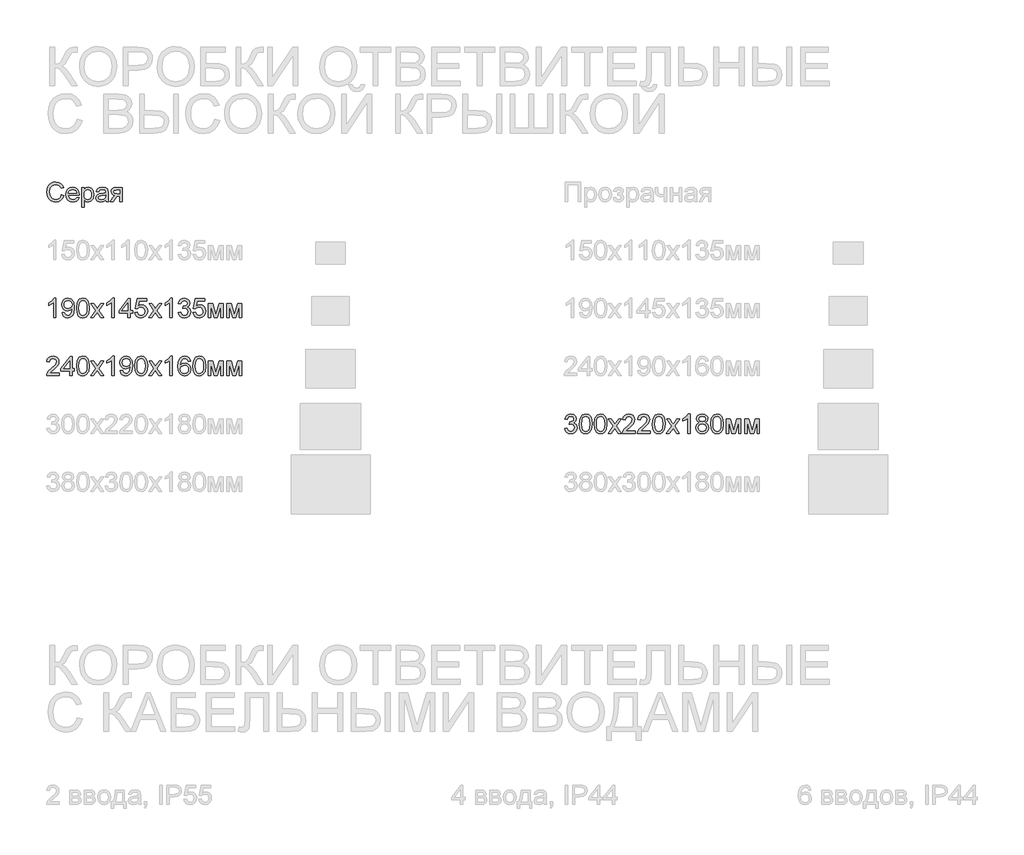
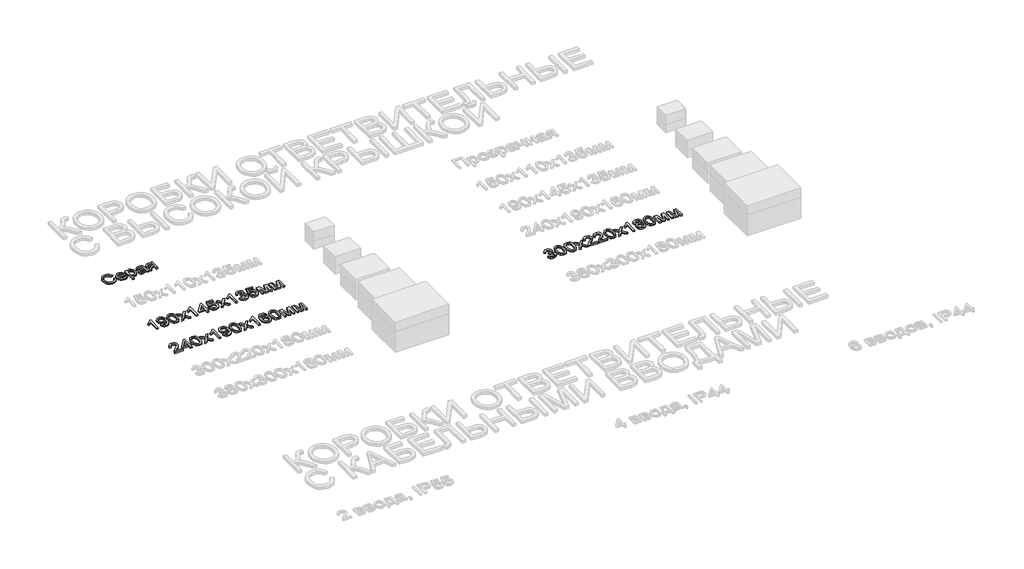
# One storey, part 17 of 98: 4 proxies.
"""IFC4 building model written with IfcOpenShell, lengths in millimetres."""

from ifc_helpers import new_model, si_unit, origin, origin_with_axes, place, context, project, spatial, polyline, outline, extrude, element, save

model = new_model("IFC4")

# Units and contexts
model_context = context("Model", 3, world=origin())
ifc_project = project(units=[si_unit("LENGTHUNIT", "METRE", prefix="MILLI")], contexts=[model_context])

# Site, building, storey
site = spatial("IfcSite", under=ifc_project)
building = spatial("IfcBuilding", under=site)
storey = spatial("IfcBuildingStorey", under=building, Name="Этаж 01", Elevation=0.0)

# Proxies
placement = place(None, origin())
element("IfcBuildingElementProxy", 1, Name="100", ObjectType="100", at=placement, inside=storey, context=model_context, shape_type="SweptSolid", body=[
    extrude(outline(polyline([(34.2297505, -42001.8282696), (46.7867893, -42005.0656312), (40.9926479, -42019.6981375), (31.8998312, -42030.3881752), (19.9559291, -42036.9272776), (5.6085313, -42039.1069785), (-8.95653, -42037.4576408), (-20.5233531, -42032.509628), (-29.3893092, -42024.4346182), (-35.8517696, -42013.4042897), (-41.1124821, -41986.5489041), (-39.6256257, -41971.9010693), (-35.1650565, -41959.25206), (-27.9637664, -41949.0034808), (-18.2547475, -41941.5569361), (-6.740041, -41937.0227905), (5.8783114, -41935.5114086), (19.6462951, -41937.4673146), (31.0291772, -41943.3350324), (39.6713384, -41952.7528115), (45.2171594, -41965.3589012), (32.6601207, -41968.3510081), (22.3594248, -41952.912227), (5.3878021, -41948.0684474), (-14.2570964, -41953.4395245), (-25.35487, -41967.8604987), (-28.5554433, -41986.5243786), (-24.7662588, -42008.1558399), (-12.9695095, -42021.9759402), (4.3577325, -42026.5499397), (14.8393037, -42024.9925726), (23.5734354, -42020.3204712), (30.1677202, -42012.5826866), (34.2297505, -42001.8282696)])), origin_with_axes(), (0.0, 0.0, 1.0), 10.0),
    extrude(outline(polyline([(114.1337199, -42015.5625308), (126.445504, -42017.1321606), (122.0094603, -42026.4089183), (114.9307975, -42033.3434939), (105.3689313, -42037.6661073), (93.4832772, -42039.1069785), (78.7496033, -42036.6207093), (67.4127065, -42029.1619019), (60.1838253, -42017.2149341), (57.7741982, -42001.2641839), (60.2083508, -41984.7769391), (67.5108084, -41972.4467609), (78.694421, -41964.7580272), (92.7720387, -41962.195116), (106.4112637, -41964.7518959), (117.3097678, -41972.4222355), (124.4558755, -41984.7278882), (126.8379114, -42001.1906075), (126.764335, -42004.5751218), (70.331237, -42004.5751218), (72.5048064, -42013.9745068), (77.5539868, -42020.884557), (84.841116, -42025.133594), (93.7285319, -42026.5499397), (106.040316, -42023.9257148), (114.1337199, -42015.5625308)]), holes=[polyline([(70.331237, -41992.0180831), (114.2808727, -41992.0180831), (109.2531521, -41980.6382667), (101.9323004, -41976.2236828), (92.7229878, -41974.7521548), (77.2596812, -41979.4487816), (72.3944418, -41984.9394204), (70.331237, -41992.0180831)])]), origin_with_axes(), (0.0, 0.0, 1.0), 10.0),
    extrude(outline(polyline([(139.3949502, -42065.7906858), (139.3949502, -41963.7647458), (151.951989, -41963.7647458), (151.951989, -41976.07653), (160.6340041, -41965.6654695), (172.357177, -41962.195116), (188.2742046, -41967.0511583), (198.6730024, -41980.7363686), (202.1801441, -42000.0869615), (198.2192812, -42020.4308358), (186.7168375, -42034.2877243), (170.8365981, -42039.1069785), (159.9105028, -42035.8818796), (151.951989, -42027.7271621), (151.951989, -42065.7906858), (139.3949502, -42065.7906858)]), holes=[polyline([(151.951989, -42001.2396584), (153.3100867, -42012.4968475), (157.3843798, -42020.3695222), (163.3961847, -42025.0048353), (170.5668179, -42026.5499397), (177.8539471, -42024.949653), (184.0190362, -42020.148793), (188.222088, -42011.987944), (189.6231053, -42000.3076907), (188.2558105, -41989.1118153), (184.1539263, -41981.128776), (178.1513184, -41976.3463101), (171.0818527, -41974.7521548), (163.9847959, -41976.4474776), (157.7522618, -41981.5334462), (153.4020572, -41989.850645), (151.951989, -42001.2396584)])]), origin_with_axes(), (0.0, 0.0, 1.0), 10.0),
    extrude(outline(polyline([(263.3957081, -42028.1195695), (251.218814, -42036.6299064), (237.7665957, -42039.1069785), (227.2727618, -42037.6170564), (219.5319115, -42033.1472901), (214.7586426, -42026.3598673), (213.167553, -42017.9169755), (215.5710487, -42007.9841617), (221.8863563, -42000.7736746), (230.678736, -41996.6533962), (241.5435175, -41994.7649353), (263.3221317, -41990.4484532), (263.3957081, -41987.6525501), (259.9376173, -41978.3819238), (246.0562033, -41974.7521548), (233.3520118, -41977.1679132), (227.2942216, -41985.7395637), (214.7371828, -41984.1699338), (220.1695736, -41971.9072007), (231.1079316, -41964.721239), (247.6748841, -41962.195116), (262.892936, -41964.4269334), (271.4891119, -41970.0310025), (275.3396102, -41978.5536021), (275.9527468, -41989.541011), (275.9527468, -42005.163733), (276.5904089, -42026.9791354), (279.0920065, -42037.5373486), (266.5349677, -42037.5373486), (263.3957081, -42028.1195695)]), holes=[polyline([(263.3957081, -42003.005492), (243.1376729, -42006.8559902), (232.3342049, -42008.8916039), (227.4413744, -42012.2025419), (225.7245917, -42017.0340587), (229.4647254, -42023.8276129), (240.4398716, -42026.5499397), (253.1440631, -42023.5455701), (261.3355689, -42016.2737693), (263.3221317, -42006.5616846), (263.3957081, -42003.005492)])]), origin_with_axes(), (0.0, 0.0, 1.0), 10.0),
    extrude(outline(polyline([(349.7253496, -41963.7647458), (349.7253496, -42037.5373486), (337.1683108, -42037.5373486), (337.1683108, -42009.2840114), (330.3257057, -42009.2840114), (321.0060285, -42010.8781667), (312.250437, -42021.5957955), (302.2440467, -42037.5373486), (287.7249707, -42037.5373486), (300.3310604, -42017.3774153), (311.0241637, -42006.9295666), (302.4402505, -42004.2992103), (296.4069858, -41999.3021466), (291.6490453, -41985.0773761), (293.2738574, -41976.4812001), (298.1482939, -41969.6753832), (306.1006763, -41965.2424052), (316.9593266, -41963.7647458), (349.7253496, -41963.7647458)]), holes=[polyline([(337.1683108, -41976.3217846), (320.613621, -41976.3217846), (307.2104537, -41979.2280524), (304.2060841, -41986.0338693), (308.6329307, -41994.1395359), (324.3169665, -41996.7269726), (337.1683108, -41996.7269726), (337.1683108, -41976.3217846)])]), origin_with_axes(), (0.0, 0.0, 1.0), 10.0),
])
element("IfcBuildingElementProxy", 2, Name="100", ObjectType="100", at=placement, inside=storey, context=model_context, shape_type="SweptSolid", body=[
    extrude(outline(polyline([(5.9764133, -42637.5373486), (-6.5806255, -42637.5373486), (-6.5806255, -42559.25206), (-18.4754766, -42567.7256087), (-31.694703, -42574.0654417), (-31.694703, -42562.195116), (-13.2883405, -42550.4474176), (-2.1169906, -42537.0810385), (5.9764133, -42537.0810385), (5.9764133, -42637.5373486)])), origin_with_axes(), (0.0, 0.0, 1.0), 10.0),
    extrude(outline(polyline([(37.3690102, -42612.4232711), (49.926049, -42610.8536412), (55.5669062, -42622.8343315), (66.2600096, -42626.5499397), (76.4258154, -42624.1587067), (83.3174714, -42617.7698227), (87.425487, -42606.8559902), (89.2403715, -42592.2878632), (89.1667951, -42589.8353166), (79.1236167, -42599.3511975), (65.3525673, -42603.005492), (53.9022402, -42600.7736746), (44.3710309, -42594.0782222), (37.942293, -42583.7346068), (35.7993804, -42570.5583), (38.0465262, -42556.9466662), (44.7879638, -42546.2780883), (54.9139157, -42539.3803009), (67.3146046, -42537.0810385), (85.2059323, -42542.3294883), (97.5177164, -42557.2900227), (101.7238339, -42585.3962072), (97.5299792, -42615.8936246), (92.3152519, -42625.8846864), (85.0587795, -42633.1718156), (76.0732618, -42637.6231877), (65.6713984, -42639.1069785), (54.9353755, -42637.3564733), (46.3698564, -42632.1049578), (40.3795112, -42623.6835258), (37.3690102, -42612.4232711)]), holes=[polyline([(89.1667951, -42570.2639944), (87.8117631, -42561.7536576), (83.7466671, -42555.2053581), (77.4374909, -42551.0298974), (69.3502183, -42549.6380772), (60.9625088, -42551.1371964), (54.2425311, -42555.6345538), (49.8279471, -42562.5170127), (48.3564191, -42571.1714367), (49.7482394, -42578.9306811), (53.9237, -42585.0896388), (60.4781309, -42589.1087496), (69.0068618, -42590.4484532), (83.4891497, -42585.0896388), (87.7473838, -42578.7038205), (89.1667951, -42570.2639944)])]), origin_with_axes(), (0.0, 0.0, 1.0), 10.0),
    extrude(outline(polyline([(112.7112428, -42588.1185339), (116.4023255, -42559.2152718), (127.365209, -42542.5502175), (145.6734696, -42537.0810385), (160.3396985, -42540.3184), (170.4687161, -42549.65034), (176.354828, -42564.5127726), (178.6356964, -42588.1185339), (174.9814019, -42616.8991687), (164.0553066, -42633.6010113), (155.823947, -42637.7304867), (145.6734696, -42639.1069785), (132.6259215, -42636.7157455), (122.7176331, -42629.5420466), (115.2128404, -42612.5520298), (112.7112428, -42588.1185339)]), holes=[polyline([(125.2682816, -42588.0940085), (126.7398096, -42607.8462059), (131.1543935, -42619.2781389), (137.7272185, -42624.7319895), (145.6734696, -42626.5499397), (153.6197207, -42624.7258581), (160.1925457, -42619.2536135), (164.6071296, -42607.8155491), (166.0786576, -42588.0940085), (164.6561806, -42568.7863351), (160.3887494, -42557.2654973), (153.8281872, -42551.5449322), (145.5263168, -42549.6380772), (137.6659048, -42551.3180717), (131.3505973, -42556.358055), (126.7888605, -42568.5962627), (125.2682816, -42588.0940085)])]), origin_with_axes(), (0.0, 0.0, 1.0), 10.0),
    extrude(outline(polyline([(184.9142158, -42637.5373486), (211.7450759, -42600.4548435), (186.4838456, -42563.7647458), (201.5915329, -42563.7647458), (213.7806896, -42581.4230816), (219.4705978, -42589.7617402), (224.4002166, -42582.9436605), (238.2816305, -42563.7647458), (253.3893178, -42563.7647458), (226.8527632, -42600.4548435), (252.4082991, -42637.5373486), (237.3006119, -42637.5373486), (221.9231445, -42615.2436997), (219.1027158, -42611.1724723), (200.021903, -42637.5373486), (184.9142158, -42637.5373486)])), origin_with_axes(), (0.0, 0.0, 1.0), 10.0),
    extrude(outline(polyline([(307.3453437, -42637.5373486), (294.788305, -42637.5373486), (294.788305, -42559.25206), (282.8934538, -42567.7256087), (269.6742274, -42574.0654417), (269.6742274, -42562.195116), (288.0805899, -42550.4474176), (299.2519399, -42537.0810385), (307.3453437, -42537.0810385), (307.3453437, -42637.5373486)])), origin_with_axes(), (0.0, 0.0, 1.0), 10.0),
    extrude(outline(polyline([(377.9786868, -42637.5373486), (377.9786868, -42613.9929009), (332.4594213, -42613.9929009), (332.4594213, -42601.4358622), (381.1179465, -42538.6506683), (390.5357256, -42538.6506683), (390.5357256, -42601.4358622), (403.0927644, -42601.4358622), (403.0927644, -42613.9929009), (390.5357256, -42613.9929009), (390.5357256, -42637.5373486), (377.9786868, -42637.5373486)]), holes=[polyline([(377.9786868, -42601.4358622), (377.9786868, -42562.6365744), (347.9104651, -42601.4358622), (377.9786868, -42601.4358622)])]), origin_with_axes(), (0.0, 0.0, 1.0), 10.0),
    extrude(outline(polyline([(414.0801733, -42610.8536412), (426.637212, -42609.2840114), (432.9647824, -42622.2211949), (446.0859069, -42626.5499397), (455.086753, -42625.0446892), (461.8312563, -42620.5289377), (466.0435051, -42613.5238514), (467.447588, -42604.5505964), (462.1868755, -42589.6391128), (455.580328, -42585.5372286), (446.2821106, -42584.1699338), (435.2579135, -42586.3527004), (428.2068419, -42592.0180831), (415.6498031, -42590.4484532), (426.637212, -42538.6506683), (475.2957373, -42538.6506683), (475.2957373, -42551.2077071), (436.7907551, -42551.2077071), (431.419678, -42578.8724331), (440.3898673, -42573.4277796), (449.7892523, -42571.6128951), (461.5216222, -42573.8631066), (471.2612981, -42580.6137412), (477.8187946, -42590.9021744), (480.0046268, -42603.7657815), (478.0364581, -42616.3228202), (472.1319521, -42627.0649745), (460.8257121, -42636.0964775), (446.0368559, -42639.1069785), (433.703612, -42637.1725323), (423.8780971, -42631.3691938), (417.1427909, -42622.3714134), (414.0801733, -42610.8536412)])), origin_with_axes(), (0.0, 0.0, 1.0), 10.0),
    extrude(outline(polyline([(486.2831462, -42637.5373486), (513.1140064, -42600.4548435), (487.852776, -42563.7647458), (502.9604633, -42563.7647458), (515.1496201, -42581.4230816), (520.8395283, -42589.7617402), (525.769147, -42582.9436605), (539.650561, -42563.7647458), (554.7582482, -42563.7647458), (528.2216937, -42600.4548435), (553.7772296, -42637.5373486), (538.6695423, -42637.5373486), (523.2920749, -42615.2436997), (520.4716463, -42611.1724723), (501.3908335, -42637.5373486), (486.2831462, -42637.5373486)])), origin_with_axes(), (0.0, 0.0, 1.0), 10.0),
    extrude(outline(polyline([(608.7142742, -42637.5373486), (596.1572354, -42637.5373486), (596.1572354, -42559.25206), (584.2623842, -42567.7256087), (571.0431579, -42574.0654417), (571.0431579, -42562.195116), (589.4495204, -42550.4474176), (600.6208703, -42537.0810385), (608.7142742, -42537.0810385), (608.7142742, -42637.5373486)])), origin_with_axes(), (0.0, 0.0, 1.0), 10.0),
    extrude(outline(polyline([(638.5372413, -42610.8536412), (651.09428, -42609.2840114), (658.0227243, -42622.5032377), (670.9844332, -42626.5499397), (679.5928719, -42625.1581195), (686.2392733, -42620.9826588), (691.904656, -42607.1993467), (686.2883242, -42594.2131123), (672.0145028, -42589.0750271), (663.2098604, -42590.4484532), (664.607812, -42577.8914145), (666.6189002, -42578.0385673), (680.8681962, -42574.4333237), (685.6138739, -42569.8593242), (687.1957665, -42563.3478129), (682.6095043, -42553.5253636), (670.7882295, -42549.6380772), (658.8198019, -42553.5621518), (652.6639099, -42565.3343757), (640.1068711, -42563.7647458), (643.8040852, -42552.4891627), (650.3830415, -42544.0707964), (659.3838877, -42538.8284779), (670.3467711, -42537.0810385), (685.4912466, -42540.5268665), (696.086248, -42549.9446456), (699.7528053, -42562.6120489), (696.270189, -42574.188069), (685.9694932, -42582.5022021), (699.6547034, -42591.0861154), (704.4616948, -42607.4200759), (702.0581991, -42619.6582836), (694.847712, -42629.8854031), (683.9645363, -42636.8015846), (670.5429749, -42639.1069785), (658.402869, -42637.1388098), (648.5191061, -42631.2343038), (641.6458441, -42622.2028008), (638.5372413, -42610.8536412)])), origin_with_axes(), (0.0, 0.0, 1.0), 10.0),
    extrude(outline(polyline([(715.4491037, -42610.8536412), (728.0061425, -42609.2840114), (734.3337128, -42622.2211949), (747.4548373, -42626.5499397), (756.4556835, -42625.0446892), (763.2001867, -42620.5289377), (767.4124355, -42613.5238514), (768.8165185, -42604.5505964), (763.555806, -42589.6391128), (756.9492585, -42585.5372286), (747.651041, -42584.1699338), (736.6268439, -42586.3527004), (729.5757723, -42592.0180831), (717.0187336, -42590.4484532), (728.0061425, -42538.6506683), (776.6646677, -42538.6506683), (776.6646677, -42551.2077071), (738.1596856, -42551.2077071), (732.7886084, -42578.8724331), (741.7587978, -42573.4277796), (751.1581827, -42571.6128951), (762.8905527, -42573.8631066), (772.6302285, -42580.6137412), (779.1877251, -42590.9021744), (781.3735573, -42603.7657815), (779.4053886, -42616.3228202), (773.5008826, -42627.0649745), (762.1946426, -42636.0964775), (747.4057864, -42639.1069785), (735.0725425, -42637.1725323), (725.2470275, -42631.3691938), (718.5117213, -42622.3714134), (715.4491037, -42610.8536412)])), origin_with_axes(), (0.0, 0.0, 1.0), 10.0),
    extrude(outline(polyline([(795.5002259, -42563.7647458), (817.1071617, -42563.7647458), (833.7599534, -42622.8220688), (851.7125947, -42563.7647458), (872.4120883, -42563.7647458), (872.4120883, -42637.5373486), (859.8550496, -42637.5373486), (859.8550496, -42578.1366691), (841.8043063, -42637.5373486), (825.323193, -42637.5373486), (808.0572646, -42575.291715), (808.0572646, -42637.5373486), (795.5002259, -42637.5373486), (795.5002259, -42563.7647458)])), origin_with_axes(), (0.0, 0.0, 1.0), 10.0),
    extrude(outline(polyline([(891.2476465, -42563.7647458), (912.8545823, -42563.7647458), (929.507374, -42622.8220688), (947.4600154, -42563.7647458), (968.1595089, -42563.7647458), (968.1595089, -42637.5373486), (955.6024702, -42637.5373486), (955.6024702, -42578.1366691), (937.551727, -42637.5373486), (921.0706136, -42637.5373486), (903.8046853, -42575.291715), (903.8046853, -42637.5373486), (891.2476465, -42637.5373486), (891.2476465, -42563.7647458)])), origin_with_axes(), (0.0, 0.0, 1.0), 10.0),
])
element("IfcBuildingElementProxy", 3, Name="100", ObjectType="100", at=placement, inside=storey, context=model_context, shape_type="SweptSolid", body=[
    extrude(outline(polyline([(23.2423416, -42924.9803098), (23.2423416, -42937.5373486), (-42.6821119, -42937.5373486), (-41.3332113, -42928.879859), (-33.7057912, -42915.550268), (-17.9849673, -42900.9944038), (3.6955449, -42880.074181), (9.115673, -42865.8494105), (4.0021133, -42854.334704), (-9.3520032, -42849.6380772), (-23.2702053, -42854.2243394), (-28.5554433, -42866.9040055), (-41.1124821, -42865.3343757), (-38.0682586, -42853.1881385), (-31.4862365, -42844.316051), (-21.7097725, -42838.8897916), (-9.082223, -42837.0810385), (3.6372969, -42839.0921267), (13.3953669, -42845.1253914), (19.6033755, -42854.1385003), (21.6727118, -42865.089121), (19.4408943, -42876.9962349), (12.0219408, -42889.308019), (-5.9674888, -42906.5126337), (-20.4129885, -42918.5914259), (-26.0783712, -42924.9803098), (23.2423416, -42924.9803098)])), origin_with_axes(), (0.0, 0.0, 1.0), 10.0),
    extrude(outline(polyline([(76.6097564, -42937.5373486), (76.6097564, -42913.9929009), (31.0904908, -42913.9929009), (31.0904908, -42901.4358622), (79.7490161, -42838.6506683), (89.1667951, -42838.6506683), (89.1667951, -42901.4358622), (101.7238339, -42901.4358622), (101.7238339, -42913.9929009), (89.1667951, -42913.9929009), (89.1667951, -42937.5373486), (76.6097564, -42937.5373486)]), holes=[polyline([(76.6097564, -42901.4358622), (76.6097564, -42862.6365744), (46.5415346, -42901.4358622), (76.6097564, -42901.4358622)])]), origin_with_axes(), (0.0, 0.0, 1.0), 10.0),
    extrude(outline(polyline([(112.7112428, -42888.1185339), (116.4023255, -42859.2152718), (127.365209, -42842.5502175), (145.6734696, -42837.0810385), (160.3396985, -42840.3184), (170.4687161, -42849.65034), (176.354828, -42864.5127726), (178.6356964, -42888.1185339), (174.9814019, -42916.8991687), (164.0553066, -42933.6010113), (155.823947, -42937.7304867), (145.6734696, -42939.1069785), (132.6259215, -42936.7157455), (122.7176331, -42929.5420466), (115.2128404, -42912.5520298), (112.7112428, -42888.1185339)]), holes=[polyline([(125.2682816, -42888.0940085), (126.7398096, -42907.8462059), (131.1543935, -42919.2781389), (137.7272185, -42924.7319895), (145.6734696, -42926.5499397), (153.6197207, -42924.7258581), (160.1925457, -42919.2536135), (164.6071296, -42907.8155491), (166.0786576, -42888.0940085), (164.6561806, -42868.7863351), (160.3887494, -42857.2654973), (153.8281872, -42851.5449322), (145.5263168, -42849.6380772), (137.6659048, -42851.3180717), (131.3505973, -42856.358055), (126.7888605, -42868.5962627), (125.2682816, -42888.0940085)])]), origin_with_axes(), (0.0, 0.0, 1.0), 10.0),
    extrude(outline(polyline([(184.9142158, -42937.5373486), (211.7450759, -42900.4548435), (186.4838456, -42863.7647458), (201.5915329, -42863.7647458), (213.7806896, -42881.4230816), (219.4705978, -42889.7617402), (224.4002166, -42882.9436605), (238.2816305, -42863.7647458), (253.3893178, -42863.7647458), (226.8527632, -42900.4548435), (252.4082991, -42937.5373486), (237.3006119, -42937.5373486), (221.9231445, -42915.2436997), (219.1027158, -42911.1724723), (200.021903, -42937.5373486), (184.9142158, -42937.5373486)])), origin_with_axes(), (0.0, 0.0, 1.0), 10.0),
    extrude(outline(polyline([(307.3453437, -42937.5373486), (294.788305, -42937.5373486), (294.788305, -42859.25206), (282.8934538, -42867.7256087), (269.6742274, -42874.0654417), (269.6742274, -42862.195116), (288.0805899, -42850.4474176), (299.2519399, -42837.0810385), (307.3453437, -42837.0810385), (307.3453437, -42937.5373486)])), origin_with_axes(), (0.0, 0.0, 1.0), 10.0),
    extrude(outline(polyline([(338.7379407, -42912.4232711), (351.2949794, -42910.8536412), (356.9358367, -42922.8343315), (367.62894, -42926.5499397), (377.7947458, -42924.1587067), (384.6864019, -42917.7698227), (388.7944175, -42906.8559902), (390.609302, -42892.2878632), (390.5357256, -42889.8353166), (380.4925471, -42899.3511975), (366.7214978, -42903.005492), (355.2711707, -42900.7736746), (345.7399613, -42894.0782222), (339.3112234, -42883.7346068), (337.1683108, -42870.5583), (339.4154567, -42856.9466662), (346.1568942, -42846.2780883), (356.2828462, -42839.3803009), (368.6835351, -42837.0810385), (386.5748628, -42842.3294883), (398.8866469, -42857.2900227), (403.0927644, -42885.3962072), (398.8989096, -42915.8936246), (393.6841823, -42925.8846864), (386.42771, -42933.1718156), (377.4421922, -42937.6231877), (367.0403288, -42939.1069785), (356.3043059, -42937.3564733), (347.7387868, -42932.1049578), (341.7484417, -42923.6835258), (338.7379407, -42912.4232711)]), holes=[polyline([(390.5357256, -42870.2639944), (389.1806936, -42861.7536576), (385.1155975, -42855.2053581), (378.8064213, -42851.0298974), (370.7191488, -42849.6380772), (362.3314393, -42851.1371964), (355.6114615, -42855.6345538), (351.1968776, -42862.5170127), (349.7253496, -42871.1714367), (351.1171698, -42878.9306811), (355.2926305, -42885.0896388), (361.8470613, -42889.1087496), (370.3757923, -42890.4484532), (384.8580801, -42885.0896388), (389.1163142, -42878.7038205), (390.5357256, -42870.2639944)])]), origin_with_axes(), (0.0, 0.0, 1.0), 10.0),
    extrude(outline(polyline([(414.0801733, -42888.1185339), (417.771256, -42859.2152718), (428.7341394, -42842.5502175), (447.0424, -42837.0810385), (461.7086289, -42840.3184), (471.8376465, -42849.65034), (477.7237584, -42864.5127726), (480.0046268, -42888.1185339), (476.3503323, -42916.8991687), (465.4242371, -42933.6010113), (457.1928774, -42937.7304867), (447.0424, -42939.1069785), (433.994852, -42936.7157455), (424.0865635, -42929.5420466), (416.5817708, -42912.5520298), (414.0801733, -42888.1185339)]), holes=[polyline([(426.637212, -42888.0940085), (428.10874, -42907.8462059), (432.523324, -42919.2781389), (439.096149, -42924.7319895), (447.0424, -42926.5499397), (454.9886511, -42924.7258581), (461.5614761, -42919.2536135), (465.9760601, -42907.8155491), (467.447588, -42888.0940085), (466.025111, -42868.7863351), (461.7576799, -42857.2654973), (455.1971176, -42851.5449322), (446.8952472, -42849.6380772), (439.0348353, -42851.3180717), (432.7195277, -42856.358055), (428.157791, -42868.5962627), (426.637212, -42888.0940085)])]), origin_with_axes(), (0.0, 0.0, 1.0), 10.0),
    extrude(outline(polyline([(486.2831462, -42937.5373486), (513.1140064, -42900.4548435), (487.852776, -42863.7647458), (502.9604633, -42863.7647458), (515.1496201, -42881.4230816), (520.8395283, -42889.7617402), (525.769147, -42882.9436605), (539.650561, -42863.7647458), (554.7582482, -42863.7647458), (528.2216937, -42900.4548435), (553.7772296, -42937.5373486), (538.6695423, -42937.5373486), (523.2920749, -42915.2436997), (520.4716463, -42911.1724723), (501.3908335, -42937.5373486), (486.2831462, -42937.5373486)])), origin_with_axes(), (0.0, 0.0, 1.0), 10.0),
    extrude(outline(polyline([(608.7142742, -42937.5373486), (596.1572354, -42937.5373486), (596.1572354, -42859.25206), (584.2623842, -42867.7256087), (571.0431579, -42874.0654417), (571.0431579, -42862.195116), (589.4495204, -42850.4474176), (600.6208703, -42837.0810385), (608.7142742, -42837.0810385), (608.7142742, -42937.5373486)])), origin_with_axes(), (0.0, 0.0, 1.0), 10.0),
    extrude(outline(polyline([(702.892065, -42863.7647458), (690.3350262, -42865.3343757), (685.5770857, -42854.8620016), (672.9955215, -42849.6380772), (661.664756, -42852.6792351), (653.0931055, -42864.0958396), (649.5246502, -42886.4753277), (660.5978982, -42876.4566747), (674.3198967, -42873.1825249), (685.9204422, -42875.4204737), (695.6570524, -42882.1343201), (702.2605342, -42892.3920964), (704.4616948, -42905.2618349), (700.316891, -42922.5890769), (688.9125491, -42934.85181), (672.4559612, -42939.1069785), (658.209731, -42936.2865498), (646.8636371, -42927.8252639), (639.4416178, -42912.8892549), (636.9676114, -42890.644657), (639.7144637, -42865.6348127), (647.9550203, -42848.5344312), (659.206078, -42839.9443867), (673.7803364, -42837.0810385), (684.7984022, -42838.8530034), (693.6214387, -42844.1688982), (699.8018562, -42852.61179), (702.892065, -42863.7647458)]), holes=[polyline([(649.5246502, -42905.0656312), (652.430918, -42915.9426755), (660.1564399, -42923.8398757), (671.4749426, -42926.5499397), (679.7614845, -42925.1458567), (686.2760615, -42920.9336079), (690.4975074, -42914.311732), (691.904656, -42905.6787678), (690.5159015, -42897.3922259), (686.3496379, -42891.0738526), (679.7246963, -42887.0731359), (670.9599078, -42885.7395637), (655.7663814, -42891.0738526), (651.085083, -42897.2389417), (649.5246502, -42905.0656312)])]), origin_with_axes(), (0.0, 0.0, 1.0), 10.0),
    extrude(outline(polyline([(715.4491037, -42888.1185339), (719.1401864, -42859.2152718), (730.1030699, -42842.5502175), (748.4113305, -42837.0810385), (763.0775594, -42840.3184), (773.206577, -42849.65034), (779.0926889, -42864.5127726), (781.3735573, -42888.1185339), (777.7192628, -42916.8991687), (766.7931675, -42933.6010113), (758.5618079, -42937.7304867), (748.4113305, -42939.1069785), (735.3637824, -42936.7157455), (725.455494, -42929.5420466), (717.9507013, -42912.5520298), (715.4491037, -42888.1185339)]), holes=[polyline([(728.0061425, -42888.0940085), (729.4776705, -42907.8462059), (733.8922544, -42919.2781389), (740.4650794, -42924.7319895), (748.4113305, -42926.5499397), (756.3575816, -42924.7258581), (762.9304066, -42919.2536135), (767.3449905, -42907.8155491), (768.8165185, -42888.0940085), (767.3940414, -42868.7863351), (763.1266103, -42857.2654973), (756.5660481, -42851.5449322), (748.2641777, -42849.6380772), (740.4037657, -42851.3180717), (734.0884582, -42856.358055), (729.5267214, -42868.5962627), (728.0061425, -42888.0940085)])]), origin_with_axes(), (0.0, 0.0, 1.0), 10.0),
    extrude(outline(polyline([(795.5002259, -42863.7647458), (817.1071617, -42863.7647458), (833.7599534, -42922.8220688), (851.7125947, -42863.7647458), (872.4120883, -42863.7647458), (872.4120883, -42937.5373486), (859.8550496, -42937.5373486), (859.8550496, -42878.1366691), (841.8043063, -42937.5373486), (825.323193, -42937.5373486), (808.0572646, -42875.291715), (808.0572646, -42937.5373486), (795.5002259, -42937.5373486), (795.5002259, -42863.7647458)])), origin_with_axes(), (0.0, 0.0, 1.0), 10.0),
    extrude(outline(polyline([(891.2476465, -42863.7647458), (912.8545823, -42863.7647458), (929.507374, -42922.8220688), (947.4600154, -42863.7647458), (968.1595089, -42863.7647458), (968.1595089, -42937.5373486), (955.6024702, -42937.5373486), (955.6024702, -42878.1366691), (937.551727, -42937.5373486), (921.0706136, -42937.5373486), (903.8046853, -42875.291715), (903.8046853, -42937.5373486), (891.2476465, -42937.5373486), (891.2476465, -42863.7647458)])), origin_with_axes(), (0.0, 0.0, 1.0), 10.0),
])
element("IfcBuildingElementProxy", 4, Name="100", ObjectType="100", at=placement, inside=storey, context=model_context, shape_type="SweptSolid", body=[
    extrude(outline(polyline([(2638.8875179, -43210.8536412), (2651.4445567, -43209.2840114), (2658.3730009, -43222.5032377), (2671.3347099, -43226.5499397), (2679.9431486, -43225.1581195), (2686.58955, -43220.9826588), (2692.2549327, -43207.1993467), (2686.6386009, -43194.2131123), (2672.3647795, -43189.0750271), (2663.5601371, -43190.4484532), (2664.9580886, -43177.8914145), (2666.9691769, -43178.0385673), (2681.2184728, -43174.4333237), (2685.9641506, -43169.8593242), (2687.5460431, -43163.3478129), (2682.9597809, -43153.5253636), (2671.1385062, -43149.6380772), (2659.1700786, -43153.5621518), (2653.0141865, -43165.3343757), (2640.4571478, -43163.7647458), (2644.1543618, -43152.4891627), (2650.7333182, -43144.0707964), (2659.7341643, -43138.8284779), (2670.6970478, -43137.0810385), (2685.8415232, -43140.5268665), (2696.4365247, -43149.9446456), (2700.1030819, -43162.6120489), (2696.6204657, -43174.188069), (2686.3197698, -43182.5022021), (2700.00498, -43191.0861154), (2704.8119715, -43207.4200759), (2702.4084757, -43219.6582836), (2695.1979886, -43229.8854031), (2684.314813, -43236.8015846), (2670.8932515, -43239.1069785), (2658.7531457, -43237.1388098), (2648.8693827, -43231.2343038), (2641.9961208, -43222.2028008), (2638.8875179, -43210.8536412)])), origin_with_axes(), (0.0, 0.0, 1.0), 10.0),
    extrude(outline(polyline([(2715.7993804, -43188.1185339), (2719.4904631, -43159.2152718), (2730.4533465, -43142.5502175), (2748.7616071, -43137.0810385), (2763.427836, -43140.3184), (2773.5568536, -43149.65034), (2779.4429655, -43164.5127726), (2781.7238339, -43188.1185339), (2778.0695394, -43216.8991687), (2767.1434442, -43233.6010113), (2758.9120845, -43237.7304867), (2748.7616071, -43239.1069785), (2735.714059, -43236.7157455), (2725.8057706, -43229.5420466), (2718.3009779, -43212.5520298), (2715.7993804, -43188.1185339)]), holes=[polyline([(2728.3564191, -43188.0940085), (2729.8279471, -43207.8462059), (2734.2425311, -43219.2781389), (2740.815356, -43224.7319895), (2748.7616071, -43226.5499397), (2756.7078582, -43224.7258581), (2763.2806832, -43219.2536135), (2767.6952672, -43207.8155491), (2769.1667951, -43188.0940085), (2767.7443181, -43168.7863351), (2763.4768869, -43157.2654973), (2756.9163247, -43151.5449322), (2748.6144543, -43149.6380772), (2740.7540424, -43151.3180717), (2734.4387348, -43156.358055), (2729.8769981, -43168.5962627), (2728.3564191, -43188.0940085)])]), origin_with_axes(), (0.0, 0.0, 1.0), 10.0),
    extrude(outline(polyline([(2792.7112428, -43188.1185339), (2796.4023255, -43159.2152718), (2807.365209, -43142.5502175), (2825.6734696, -43137.0810385), (2840.3396985, -43140.3184), (2850.4687161, -43149.65034), (2856.354828, -43164.5127726), (2858.6356964, -43188.1185339), (2854.9814019, -43216.8991687), (2844.0553066, -43233.6010113), (2835.823947, -43237.7304867), (2825.6734696, -43239.1069785), (2812.6259215, -43236.7157455), (2802.7176331, -43229.5420466), (2795.2128404, -43212.5520298), (2792.7112428, -43188.1185339)]), holes=[polyline([(2805.2682816, -43188.0940085), (2806.7398096, -43207.8462059), (2811.1543935, -43219.2781389), (2817.7272185, -43224.7319895), (2825.6734696, -43226.5499397), (2833.6197207, -43224.7258581), (2840.1925457, -43219.2536135), (2844.6071296, -43207.8155491), (2846.0786576, -43188.0940085), (2844.6561806, -43168.7863351), (2840.3887494, -43157.2654973), (2833.8281872, -43151.5449322), (2825.5263168, -43149.6380772), (2817.6659048, -43151.3180717), (2811.3505973, -43156.358055), (2806.7888605, -43168.5962627), (2805.2682816, -43188.0940085)])]), origin_with_axes(), (0.0, 0.0, 1.0), 10.0),
    extrude(outline(polyline([(2864.9142158, -43237.5373486), (2891.7450759, -43200.4548435), (2866.4838456, -43163.7647458), (2881.5915329, -43163.7647458), (2893.7806896, -43181.4230816), (2899.4705978, -43189.7617402), (2904.4002166, -43182.9436605), (2918.2816305, -43163.7647458), (2933.3893178, -43163.7647458), (2906.8527632, -43200.4548435), (2932.4082991, -43237.5373486), (2917.3006119, -43237.5373486), (2901.9231445, -43215.2436997), (2899.1027158, -43211.1724723), (2880.021903, -43237.5373486), (2864.9142158, -43237.5373486)])), origin_with_axes(), (0.0, 0.0, 1.0), 10.0),
    extrude(outline(polyline([(3004.6112721, -43224.9803098), (3004.6112721, -43237.5373486), (2938.6868185, -43237.5373486), (2940.0357192, -43228.879859), (2947.6631392, -43215.550268), (2963.3839631, -43200.9944038), (2985.0644754, -43180.074181), (2990.4846034, -43165.8494105), (2985.3710437, -43154.334704), (2972.0169273, -43149.6380772), (2958.0987251, -43154.2243394), (2952.8134871, -43166.9040055), (2940.2564484, -43165.3343757), (2943.3006719, -43153.1881385), (2949.8826939, -43144.316051), (2959.6591579, -43138.8897916), (2972.2867074, -43137.0810385), (2985.0062274, -43139.0921267), (2994.7642973, -43145.1253914), (3000.972306, -43154.1385003), (3003.0416422, -43165.089121), (3000.8098248, -43176.9962349), (2993.3908712, -43189.308019), (2975.4014416, -43206.5126337), (2960.955942, -43218.5914259), (2955.2905592, -43224.9803098), (3004.6112721, -43224.9803098)])), origin_with_axes(), (0.0, 0.0, 1.0), 10.0),
    extrude(outline(polyline([(3081.5231345, -43224.9803098), (3081.5231345, -43237.5373486), (3015.598681, -43237.5373486), (3016.9475816, -43228.879859), (3024.5750017, -43215.550268), (3040.2958256, -43200.9944038), (3061.9763378, -43180.074181), (3067.3964659, -43165.8494105), (3062.2829062, -43154.334704), (3048.9287897, -43149.6380772), (3035.0105876, -43154.2243394), (3029.7253496, -43166.9040055), (3017.1683108, -43165.3343757), (3020.2125343, -43153.1881385), (3026.7945564, -43144.316051), (3036.5710204, -43138.8897916), (3049.1985699, -43137.0810385), (3061.9180899, -43139.0921267), (3071.6761598, -43145.1253914), (3077.8841684, -43154.1385003), (3079.9535047, -43165.089121), (3077.7216872, -43176.9962349), (3070.3027337, -43189.308019), (3052.3133041, -43206.5126337), (3037.8678044, -43218.5914259), (3032.2024217, -43224.9803098), (3081.5231345, -43224.9803098)])), origin_with_axes(), (0.0, 0.0, 1.0), 10.0),
    extrude(outline(polyline([(3094.0801733, -43188.1185339), (3097.771256, -43159.2152718), (3108.7341394, -43142.5502175), (3127.0424, -43137.0810385), (3141.7086289, -43140.3184), (3151.8376465, -43149.65034), (3157.7237584, -43164.5127726), (3160.0046268, -43188.1185339), (3156.3503323, -43216.8991687), (3145.4242371, -43233.6010113), (3137.1928774, -43237.7304867), (3127.0424, -43239.1069785), (3113.994852, -43236.7157455), (3104.0865635, -43229.5420466), (3096.5817708, -43212.5520298), (3094.0801733, -43188.1185339)]), holes=[polyline([(3106.637212, -43188.0940085), (3108.10874, -43207.8462059), (3112.523324, -43219.2781389), (3119.096149, -43224.7319895), (3127.0424, -43226.5499397), (3134.9886511, -43224.7258581), (3141.5614761, -43219.2536135), (3145.9760601, -43207.8155491), (3147.447588, -43188.0940085), (3146.025111, -43168.7863351), (3141.7576799, -43157.2654973), (3135.1971176, -43151.5449322), (3126.8952473, -43149.6380772), (3119.0348353, -43151.3180717), (3112.7195277, -43156.358055), (3108.157791, -43168.5962627), (3106.637212, -43188.0940085)])]), origin_with_axes(), (0.0, 0.0, 1.0), 10.0),
    extrude(outline(polyline([(3166.2831462, -43237.5373486), (3193.1140064, -43200.4548435), (3167.852776, -43163.7647458), (3182.9604633, -43163.7647458), (3195.1496201, -43181.4230816), (3200.8395283, -43189.7617402), (3205.769147, -43182.9436605), (3219.650561, -43163.7647458), (3234.7582482, -43163.7647458), (3208.2216937, -43200.4548435), (3233.7772296, -43237.5373486), (3218.6695423, -43237.5373486), (3203.2920749, -43215.2436997), (3200.4716463, -43211.1724723), (3181.3908335, -43237.5373486), (3166.2831462, -43237.5373486)])), origin_with_axes(), (0.0, 0.0, 1.0), 10.0),
    extrude(outline(polyline([(3288.7142742, -43237.5373486), (3276.1572354, -43237.5373486), (3276.1572354, -43159.25206), (3264.2623842, -43167.7256087), (3251.0431579, -43174.0654417), (3251.0431579, -43162.195116), (3269.4495204, -43150.4474176), (3280.6208703, -43137.0810385), (3288.7142742, -43137.0810385), (3288.7142742, -43237.5373486)])), origin_with_axes(), (0.0, 0.0, 1.0), 10.0),
    extrude(outline(polyline([(3336.8332392, -43182.2078965), (3325.3921091, -43174.4087982), (3321.676501, -43162.2686924), (3323.6998519, -43152.4523745), (3329.7699049, -43144.3405765), (3339.206078, -43138.895923), (3351.3277898, -43137.0810385), (3363.5230779, -43138.9388425), (3373.0818784, -43144.5122548), (3379.2622959, -43152.7528115), (3381.3224351, -43162.6120489), (3377.6558779, -43174.4455864), (3366.5335789, -43182.2078965), (3379.8876953, -43192.0548713), (3384.4616948, -43208.3029927), (3382.1930892, -43220.3082085), (3375.3872723, -43230.2287596), (3364.8781099, -43236.8874238), (3351.499468, -43239.1069785), (3338.1208261, -43236.8782267), (3327.6116638, -43230.1919714), (3320.8058469, -43220.1763841), (3318.5372413, -43207.9596362), (3323.2951817, -43191.33137), (3336.8332392, -43182.2078965)]), holes=[polyline([(3334.2335397, -43162.6365744), (3338.6849119, -43172.4958119), (3351.6466208, -43176.3217846), (3364.3508124, -43172.5203373), (3368.7653963, -43163.2006601), (3364.2036596, -43153.5498891), (3351.499468, -43149.6380772), (3338.7584883, -43153.46405), (3334.2335397, -43162.6365744)]), polyline([(3331.09428, -43207.5181778), (3333.1912074, -43216.9727451), (3340.610161, -43224.0483421), (3351.5975699, -43226.5499397), (3360.1446949, -43225.2347616), (3366.5581044, -43221.2892272), (3371.904656, -43207.9105853), (3366.3864261, -43194.274426), (3359.8258639, -43190.227724), (3351.180637, -43188.8788234), (3342.7530736, -43190.2093299), (3336.4040435, -43194.2008496), (3331.09428, -43207.5181778)])]), origin_with_axes(), (0.0, 0.0, 1.0), 10.0),
    extrude(outline(polyline([(3395.4491037, -43188.1185339), (3399.1401864, -43159.2152718), (3410.1030699, -43142.5502175), (3428.4113305, -43137.0810385), (3443.0775594, -43140.3184), (3453.206577, -43149.65034), (3459.0926889, -43164.5127726), (3461.3735573, -43188.1185339), (3457.7192628, -43216.8991687), (3446.7931675, -43233.6010113), (3438.5618079, -43237.7304867), (3428.4113305, -43239.1069785), (3415.3637824, -43236.7157455), (3405.455494, -43229.5420466), (3397.9507013, -43212.5520298), (3395.4491037, -43188.1185339)]), holes=[polyline([(3408.0061425, -43188.0940085), (3409.4776705, -43207.8462059), (3413.8922544, -43219.2781389), (3420.4650794, -43224.7319895), (3428.4113305, -43226.5499397), (3436.3575816, -43224.7258581), (3442.9304066, -43219.2536135), (3447.3449905, -43207.8155491), (3448.8165185, -43188.0940085), (3447.3940414, -43168.7863351), (3443.1266103, -43157.2654973), (3436.5660481, -43151.5449322), (3428.2641777, -43149.6380772), (3420.4037657, -43151.3180717), (3414.0884582, -43156.358055), (3409.5267214, -43168.5962627), (3408.0061425, -43188.0940085)])]), origin_with_axes(), (0.0, 0.0, 1.0), 10.0),
    extrude(outline(polyline([(3475.5002259, -43163.7647458), (3497.1071617, -43163.7647458), (3513.7599534, -43222.8220688), (3531.7125947, -43163.7647458), (3552.4120883, -43163.7647458), (3552.4120883, -43237.5373486), (3539.8550496, -43237.5373486), (3539.8550496, -43178.1366691), (3521.8043063, -43237.5373486), (3505.323193, -43237.5373486), (3488.0572646, -43175.291715), (3488.0572646, -43237.5373486), (3475.5002259, -43237.5373486), (3475.5002259, -43163.7647458)])), origin_with_axes(), (0.0, 0.0, 1.0), 10.0),
    extrude(outline(polyline([(3571.2476465, -43163.7647458), (3592.8545823, -43163.7647458), (3609.507374, -43222.8220688), (3627.4600154, -43163.7647458), (3648.1595089, -43163.7647458), (3648.1595089, -43237.5373486), (3635.6024702, -43237.5373486), (3635.6024702, -43178.1366691), (3617.551727, -43237.5373486), (3601.0706136, -43237.5373486), (3583.8046853, -43175.291715), (3583.8046853, -43237.5373486), (3571.2476465, -43237.5373486), (3571.2476465, -43163.7647458)])), origin_with_axes(), (0.0, 0.0, 1.0), 10.0),
])

save(model, "model.ifc")
